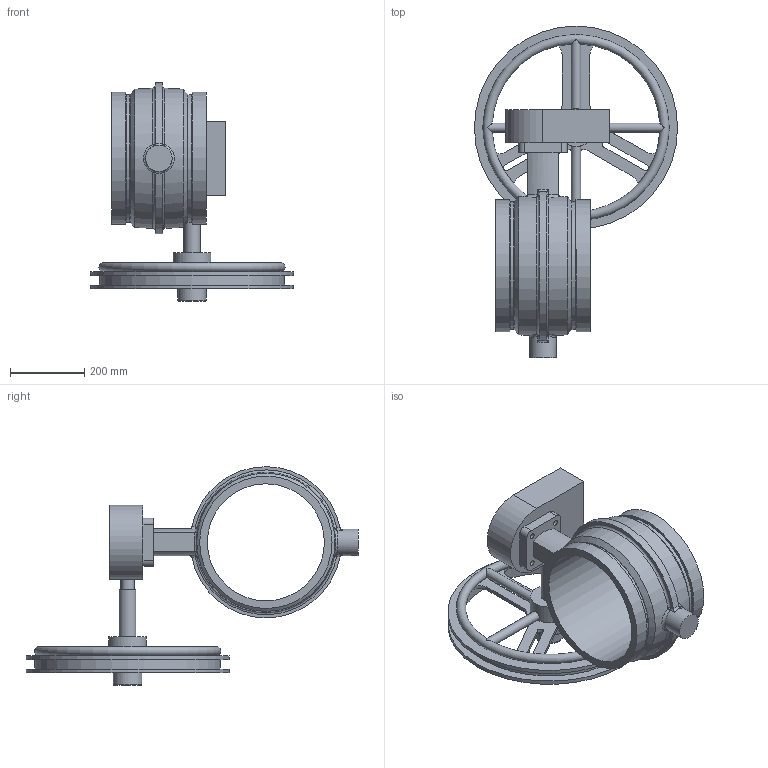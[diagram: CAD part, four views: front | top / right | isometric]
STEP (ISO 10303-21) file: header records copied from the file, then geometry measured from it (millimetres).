
FILE_DESCRIPTION(/* description */ ('VIC AGS VALVE BUTTERFLY VIC-300 MS CW SERIES W761 (AGS)'),/* implementation_level */ '2;1');
FILE_NAME(/* name */ 'C:\Files for Export\W761\STEP\Victaulic_IPS-AGS_Vlv Btfl Vic-300 MS CW_Series W761 (AGS)\Victaulic_IPS-AGS_Vlv Btfl Vic-300 MS CW_Series W761 (AGS)_14 (350).stp',/* time_stamp */ '2024-08-27T14:18:56+02:00',/* author */ ('jheald'),/* organization */ ('Victaulic'),/* preprocessor_version */ 'ST-DEVELOPER v18.1',/* originating_system */ 'Autodesk Inventor 2020',/* authorisation */ '');
FILE_SCHEMA (('AUTOMOTIVE_DESIGN { 1 0 10303 214 3 1 1 }'));
Length unit declared in the file: inch
Products named in the file (1): W761-14.0
Bounding box: 546.1 x 892.3 x 587.5 mm (x, y, z)
Volume: 16883920 mm3; surface area: 1542799.1 mm2
Topology: 1 solids, 1 shells, 155 faces, 447 edges, 293 vertices
Faces by surface type: cylinder 66, plane 53, torus 14, bspline 10, sphere 8, cone 4
Full cylindrical faces by diameter (mm): 14.681 x4, 24.994 x2, 35.56 x1, 44.45 x1, 71.12 x1, 76.2 x1, 101.6 x1, 124.46 x1, 314.579 x1, 342.9 x2, 355.6 x2, 489.712 x1, 497.84 x1, 546.1 x2
Entity records: 6310 total; most frequent: CARTESIAN_POINT 1909, ORIENTED_EDGE 908, DIRECTION 891, EDGE_CURVE 454, AXIS2_PLACEMENT_3D 371, VERTEX_POINT 293, CIRCLE 225, EDGE_LOOP 181
